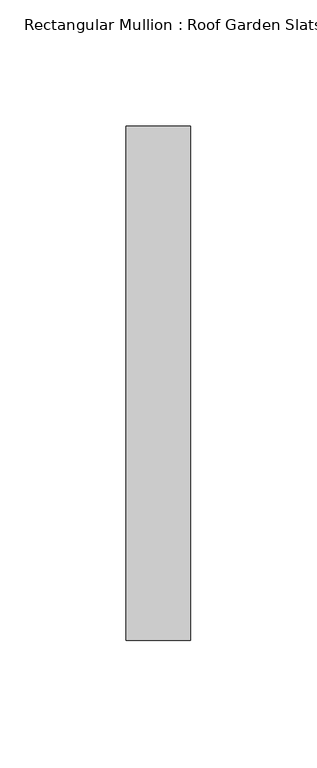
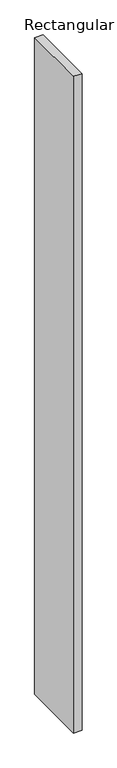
"""IFC4 building model written with IfcOpenShell, lengths in millimetres: member geometry, Rectangular Mullion : Roof Garden Slats."""

from ifc_helpers import new_model, si_unit, frame, origin, place, context, project, spatial, polyline, outline, extrude, source, transform, mapped, element, save


def rectangular_mullion_roof_garden_slats_190c9555(model_context):
    return source(origin(), model_context, "Body", "SweptSolid", [
        extrude(outline(polyline([(12.7, 139.7), (12.7, -63.5), (-12.7, -63.5), (-12.7, 139.7), (12.7, 139.7)])), frame((0.0, 0.0, -2093.6215425), z_axis=(0.0, 0.0, 1.0), x_axis=(1.0, 0.0, 0.0)), (0.0, 0.0, 1.0), 2093.6215425),
    ])


if __name__ == "__main__":
    model = new_model("IFC4")
    model_context = context("Model", 3, world=origin())
    ifc_project = project(units=[si_unit("LENGTHUNIT", "METRE", prefix="MILLI")], contexts=[model_context])
    site = spatial("IfcSite", under=ifc_project)
    building = spatial("IfcBuilding", under=site)
    placement = place(None, origin())
    rectangular_mullion_roof_garden_slats_shape = rectangular_mullion_roof_garden_slats_190c9555(model_context)
    element("IfcMember", 1, ObjectType="Rectangular Mullion : Roof Garden Slats", at=placement, inside=building, context=model_context, shape_type="MappedRepresentation", body=[
        mapped(rectangular_mullion_roof_garden_slats_shape, transform((0.0, 0.0, 0.0), x_axis=(1.0, 0.0, 0.0), y_axis=(0.0, 1.0, 0.0), z_axis=(0.0, 0.0, 1.0))),
    ])
    save(model, "model.ifc")
